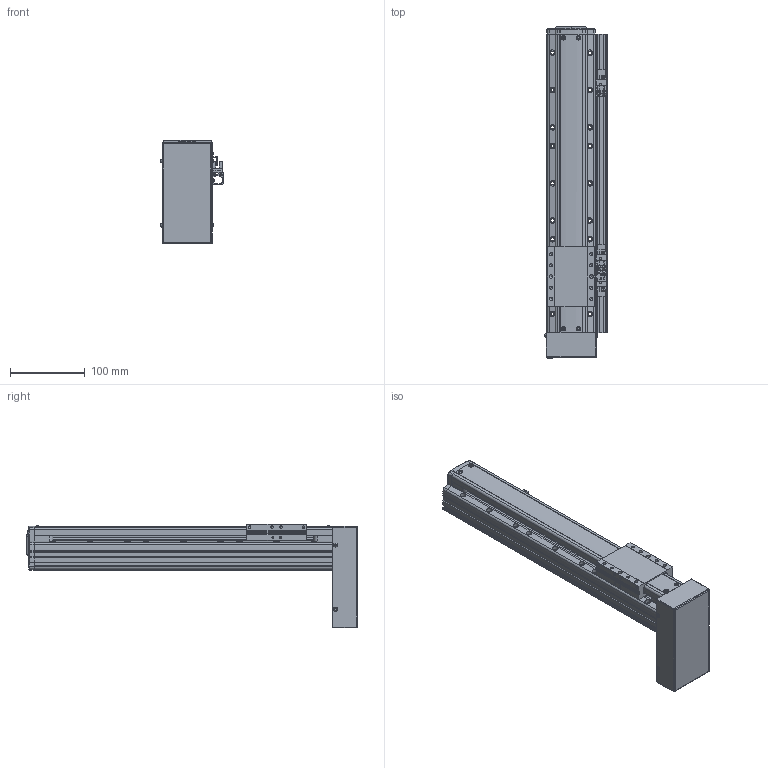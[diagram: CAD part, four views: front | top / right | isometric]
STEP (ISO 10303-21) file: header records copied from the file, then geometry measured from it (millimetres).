
FILE_DESCRIPTION(('STEP AP214'),'1');
FILE_NAME('Z:/Web/3D/PSA65/STP/PSA65-250 (3D)/PSA65ㅁㅁ-250PB+3SR.stp','2014-06-25T04:32:26',(' '),(' '),'Spatial InterOp 3D',' ',' ');
FILE_SCHEMA(('automotive_design'));
Length unit declared in the file: millimetre
Products named in the file (67): SLIDE; RRCV-PA060; 1; 2; 3; 4; 5; 6; 7; 8; 9; 10; 11; 12; 13; 14; 15; 16; 17; 18; 19; 20; 21; 22; 23; 24; 25; 26; 27; 28; 29; 30; 31; 스크루 : Round - M3.0 x 8.0; RN8 x 0.75; SHAFT-SAN65; BASE; 스크루 : Round - M3.0 x 6.0; BTCV-SAN65; M3.0 x 6.0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
Bounding box: 84.06 x 444.8 x 139 mm (x, y, z)
Volume: 1622037.7 mm3; surface area: 273581 mm2
Topology: 67 solids, 67 shells, 2248 faces, 5923 edges, 3808 vertices
Faces by surface type: plane 1391, cylinder 581, cone 191, sphere 50, bspline 19, torus 16
Entity records: 89034 total; most frequent: CARTESIAN_POINT 13663, DIRECTION 11926, ORIENTED_EDGE 11610, EDGE_CURVE 5805, LINE 4104, VECTOR 4104, AXIS2_PLACEMENT_3D 3911, VERTEX_POINT 3808
